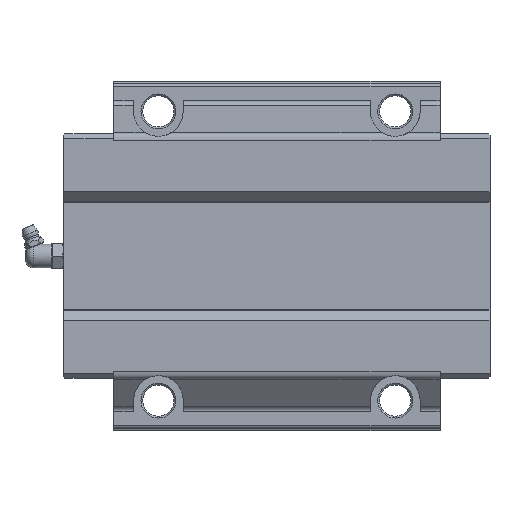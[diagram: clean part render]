
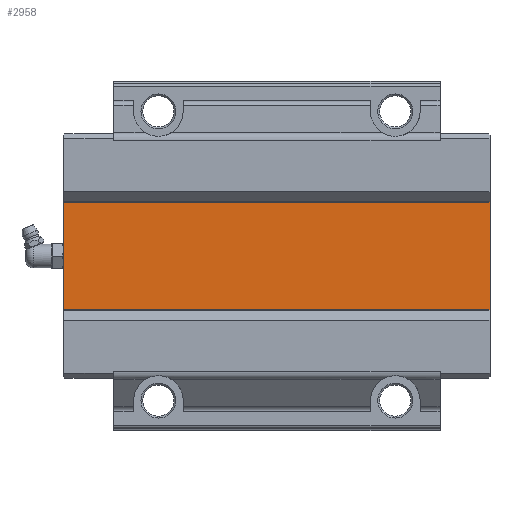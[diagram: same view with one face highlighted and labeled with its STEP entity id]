
A CAD part, front view. The second image highlights one B-rep face of the part: STEP entity #2958.
In plain terms, the highlighted planar face has unit normal (0, -1, 0).
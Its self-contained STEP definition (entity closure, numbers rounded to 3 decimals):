
#859=ORIENTED_EDGE('',*,*,#1190,.F.);
#860=ORIENTED_EDGE('',*,*,#1434,.F.);
#861=ORIENTED_EDGE('',*,*,#1127,.T.);
#862=ORIENTED_EDGE('',*,*,#1433,.T.);
#1127=EDGE_CURVE('',#1544,#1543,#1827,.T.);
#1190=EDGE_CURVE('',#1597,#1598,#1871,.T.);
#1433=EDGE_CURVE('',#1543,#1598,#2032,.T.);
#1434=EDGE_CURVE('',#1544,#1597,#2033,.T.);
#1543=VERTEX_POINT('',#4258);
#1544=VERTEX_POINT('',#4260);
#1597=VERTEX_POINT('',#4382);
#1598=VERTEX_POINT('',#4384);
#1827=LINE('',#4259,#2083);
#1871=LINE('',#4383,#2127);
#2032=LINE('',#4939,#2288);
#2033=LINE('',#4941,#2289);
#2083=VECTOR('',#3396,1000.);
#2127=VECTOR('',#3492,1000.);
#2288=VECTOR('',#3971,1000.);
#2289=VECTOR('',#3974,1000.);
#2445=EDGE_LOOP('',(#859,#860,#861,#862));
#2664=FACE_BOUND('',#2445,.T.);
#2823=PLANE('',#3253);
#2958=ADVANCED_FACE('',(#2664),#2823,.T.);
#3253=AXIS2_PLACEMENT_3D('',#4940,#3972,#3973);
#3396=DIRECTION('',(0.,0.,1.));
#3492=DIRECTION('',(0.,0.,1.));
#3971=DIRECTION('',(-1.,0.,0.));
#3972=DIRECTION('',(0.,-1.,0.));
#3973=DIRECTION('',(0.,0.,-1.));
#3974=DIRECTION('',(-1.,0.,0.));
#4258=CARTESIAN_POINT('',(85.5,25.3,22.233));
#4259=CARTESIAN_POINT('',(85.5,25.3,-22.233));
#4260=CARTESIAN_POINT('',(85.5,25.3,-22.233));
#4382=CARTESIAN_POINT('',(-85.5,25.3,-22.233));
#4383=CARTESIAN_POINT('',(-85.5,25.3,-22.233));
#4384=CARTESIAN_POINT('',(-85.5,25.3,22.233));
#4939=CARTESIAN_POINT('',(85.5,25.3,22.233));
#4940=CARTESIAN_POINT('',(85.5,25.3,-22.233));
#4941=CARTESIAN_POINT('',(85.5,25.3,-22.233));
